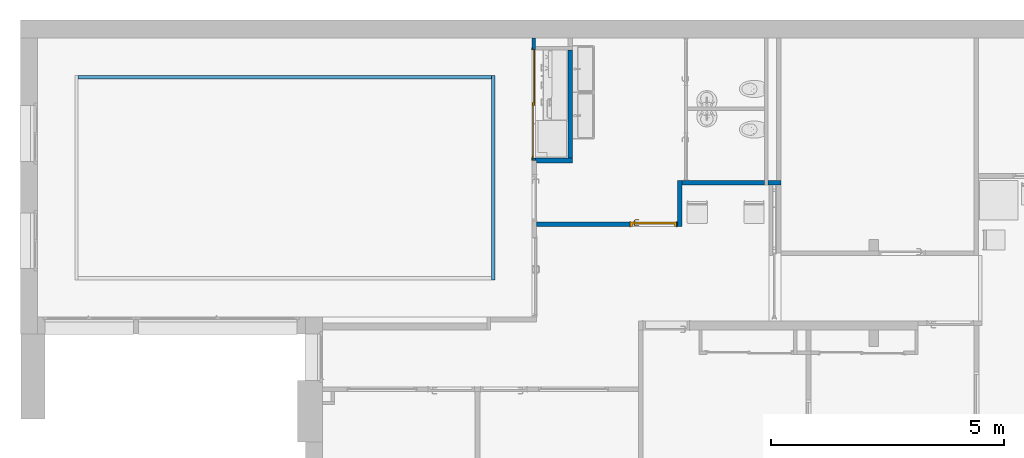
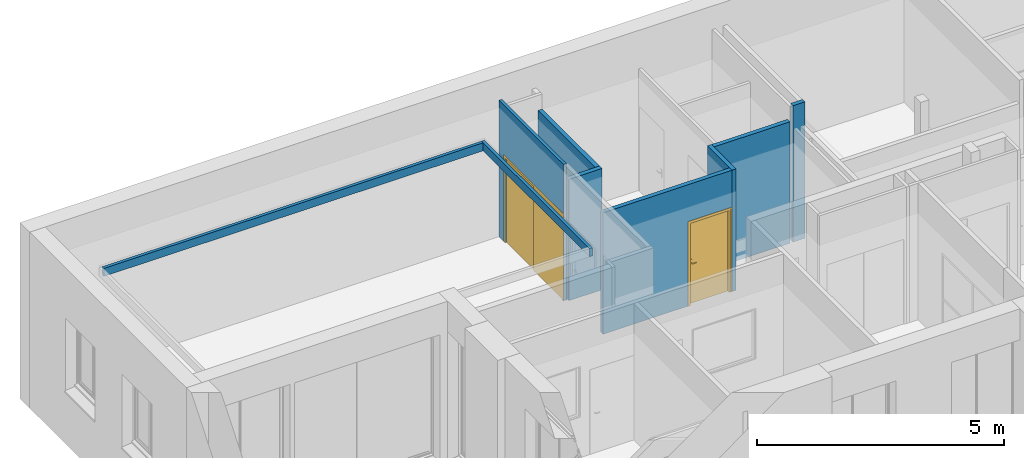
# One storey, part 9 of 32: 9 walls, 2 doors, 2 openings.
"""IFC2X3 building model written with IfcOpenShell, lengths in metres."""

from ifc_helpers import new_model, entity, si_unit, converted_unit, derived_unit, direction, frame, frame_2d, origin, origin_2d_with_axis, place, context, subcontext, project, spatial, polyline, circle_curve, parameter, trimmed, segment, composite_curve, rectangle, outline, extrude, faceted_brep, source, transform, mapped, material, material_list, layer, layer_set, layer_usage, type_object, type_shapes, element, fill, save


model = new_model("IFC2X3")

# Units and contexts
model_context = context("Model", 3, precision=1e-05, world=origin(), true_north=direction((6.12303176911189e-17, 1.0)))
plan_context = context("Plan", 3, precision=1e-05, world=origin(), true_north=direction((6.12303176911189e-17, 1.0)))
body_context = subcontext(model_context, "Body", "Model", "MODEL_VIEW")
ifc_project = project(units=[si_unit("LENGTHUNIT", "METRE"), si_unit("AREAUNIT", "SQUARE_METRE"), si_unit("VOLUMEUNIT", "CUBIC_METRE"), converted_unit("PLANEANGLEUNIT", "DEGREE", entity("IfcRatioMeasure", 0.0174532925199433), si_unit("PLANEANGLEUNIT", "RADIAN"), dimensions=[0, 0, 0, 0, 0, 0, 0]), si_unit("MASSUNIT", "GRAM", prefix="KILO"), derived_unit("MASSDENSITYUNIT", [(si_unit("MASSUNIT", "GRAM", prefix="KILO"), 1), (si_unit("LENGTHUNIT", "METRE"), -3)]), derived_unit("MOMENTOFINERTIAUNIT", [(si_unit("LENGTHUNIT", "METRE"), 4)]), si_unit("TIMEUNIT", "SECOND"), si_unit("FREQUENCYUNIT", "HERTZ"), si_unit("THERMODYNAMICTEMPERATUREUNIT", "DEGREE_CELSIUS"), derived_unit("THERMALTRANSMITTANCEUNIT", [(si_unit("MASSUNIT", "GRAM", prefix="KILO"), 1), (si_unit("THERMODYNAMICTEMPERATUREUNIT", "KELVIN"), -1), (si_unit("TIMEUNIT", "SECOND"), -3)]), derived_unit("VOLUMETRICFLOWRATEUNIT", [(si_unit("LENGTHUNIT", "METRE"), 3), (si_unit("TIMEUNIT", "SECOND"), -1)]), si_unit("ELECTRICCURRENTUNIT", "AMPERE"), si_unit("ELECTRICVOLTAGEUNIT", "VOLT"), si_unit("POWERUNIT", "WATT"), si_unit("FORCEUNIT", "NEWTON", prefix="KILO"), si_unit("ILLUMINANCEUNIT", "LUX"), si_unit("LUMINOUSFLUXUNIT", "LUMEN"), si_unit("LUMINOUSINTENSITYUNIT", "CANDELA"), derived_unit("USERDEFINED", [(si_unit("MASSUNIT", "GRAM", prefix="KILO"), -1), (si_unit("LENGTHUNIT", "METRE"), -2), (si_unit("TIMEUNIT", "SECOND"), 3), (si_unit("LUMINOUSFLUXUNIT", "LUMEN"), 1)]), derived_unit("LINEARVELOCITYUNIT", [(si_unit("LENGTHUNIT", "METRE"), 1), (si_unit("TIMEUNIT", "SECOND"), -1)]), si_unit("PRESSUREUNIT", "PASCAL"), derived_unit("USERDEFINED", [(si_unit("LENGTHUNIT", "METRE"), -2), (si_unit("MASSUNIT", "GRAM", prefix="KILO"), 1), (si_unit("TIMEUNIT", "SECOND"), -2)]), derived_unit("LINEARFORCEUNIT", [(si_unit("MASSUNIT", "GRAM", prefix="KILO"), 1), (si_unit("LENGTHUNIT", "METRE"), 1), (si_unit("TIMEUNIT", "SECOND"), -2), (si_unit("LENGTHUNIT", "METRE"), -1)]), derived_unit("PLANARFORCEUNIT", [(si_unit("MASSUNIT", "GRAM", prefix="KILO"), 1), (si_unit("LENGTHUNIT", "METRE"), 1), (si_unit("TIMEUNIT", "SECOND"), -2), (si_unit("LENGTHUNIT", "METRE"), -2)])], contexts=[model_context, plan_context])

# Site, building, storey
site_placement = place(None, origin())
site = spatial("IfcSite", under=ifc_project, at=site_placement, Name="Default", CompositionType="ELEMENT")
building_placement = place(site_placement, origin())
building = spatial("IfcBuilding", under=site, at=building_placement, CompositionType="ELEMENT")
storey_placement = place(building_placement, origin())
storey = spatial("IfcBuildingStorey", under=building, at=storey_placement, Name="0 Mairie RDC 0.00", CompositionType="ELEMENT", Elevation=-1.94916083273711e-14)

# Walls
ifc_material_1 = material(Name="Plâtre")
ifc_layer_1 = layer(ifc_material_1, 0.0125)
ifc_layer_2 = layer(ifc_material_1, 0.0125)
ifc_material_2 = material(Name="Maçonnerie - Isolant")
ifc_layer_3 = layer(ifc_material_2, 0.05)
ifc_layer_4 = layer(ifc_material_1, 0.0125)
ifc_layer_5 = layer(ifc_material_1, 0.0125)
ifc_layer_set_1 = layer_set([ifc_layer_1, ifc_layer_2, ifc_layer_3, ifc_layer_4, ifc_layer_5], Name="Mur de base:A cloison placostil 98 sèche")
ifc_layer_usage_1 = layer_usage(ifc_layer_set_1, "AXIS2", "NEGATIVE", 0.05)
wall_type_1 = type_object("IfcWallType", Name="Murs : Mur de base : A cloison placostil 98 sèche", PredefinedType="STANDARD", material=ifc_layer_set_1)
wall_1_placement = place(storey_placement, frame((-16.1166269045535, -6.01276374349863, 0.0), z_axis=(0.0, 0.0, 1.0), x_axis=(0.0, 1.0, 0.0)))
element("IfcWallStandardCase", 1, at=wall_1_placement, inside=storey, type_object=wall_type_1, material=ifc_layer_usage_1, Name="Murs : Mur de base : A cloison placostil 98 sèche", ObjectType="Mur de base:A cloison placostil 98 sèche", context=body_context, shape_type="SweptSolid", body=[
    extrude(rectangle(XDim=0.992841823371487, YDim=0.0999999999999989, at=frame_2d((0.496420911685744, 0.0), x_axis=(-1.0, 0.0))), origin(), (0.0, 0.0, 1.0), 3.0),
])
ifc_layer_usage_2 = layer_usage(ifc_layer_set_1, "AXIS2", "NEGATIVE", 0.05)
wall_2_placement = place(storey_placement, frame((-14.2967760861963, -5.06992192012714, 0.0), z_axis=(0.0, 0.0, 1.0), x_axis=(-1.0, 0.0, 0.0)))
element("IfcWallStandardCase", 2, at=wall_2_placement, inside=storey, type_object=wall_type_1, material=ifc_layer_usage_2, Name="Murs : Mur de base : A cloison placostil 98 sèche", ObjectType="Mur de base:A cloison placostil 98 sèche", context=body_context, shape_type="SweptSolid", body=[
    extrude(rectangle(XDim=1.76985081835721, YDim=0.100000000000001, at=frame_2d((0.884925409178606, 5.55111512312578e-17), x_axis=(-1.0, 0.0))), origin(), (0.0, 0.0, 1.0), 3.0),
])

# Wall, opening, door
ifc_layer_usage_3 = layer_usage(ifc_layer_set_1, "AXIS2", "POSITIVE", -0.05)
wall_3_placement = place(storey_placement, frame((-19.1821823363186, -5.96276374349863, 0.0)))
wall_3 = element("IfcWallStandardCase", 3, at=wall_3_placement, inside=storey, type_object=wall_type_1, material=ifc_layer_usage_3, Name="Murs : Mur de base : A cloison placostil 98 sèche", ObjectType="Mur de base:A cloison placostil 98 sèche", context=body_context, shape_type="SweptSolid", body=[
    extrude(rectangle(XDim=3.01555543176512, YDim=0.0999999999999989, at=frame_2d((1.50777771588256, -1.56125112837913e-16), x_axis=(-1.0, 0.0))), origin(), (0.0, 0.0, 1.0), 3.0),
])
opening_1_placement = place(wall_3_placement, frame((2.00055543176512, -0.050000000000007, 0.0)))
opening_1 = element("IfcOpeningElement", 4, at=opening_1_placement, cuts=wall_3, Name="Portes : Int. Simple : PP (0.89m x 2.04m):1", ObjectType="Opening", context=body_context, shape_type="SweptSolid", body=[
    extrude(rectangle(XDim=2.075, YDim=1.0, at=frame_2d((1.0375, 0.5), x_axis=(1.0, 0.0))), frame((0.0, 0.0, 0.0), z_axis=(0.0, 1.0, 0.0), x_axis=(0.0, 0.0, 1.0)), (0.0, 0.0, 1.0), 0.1),
])
ifc_material_3 = material(Name="Finition Peinture - Blanc satiné")
ifc_material_4 = material(Name="Bois - Cadre de porte")
ifc_material_list_1 = material_list([ifc_material_3, ifc_material_4])
ifc_material_5 = material(Name="Bois - Panneau de porte")
ifc_material_list_2 = material_list([ifc_material_5, ifc_material_4, ifc_material_3])
door_style_1 = type_object("IfcDoorStyle", Name="Portes : Int. Simple : PP (0.89m x 2.04m)", ConstructionType="NOTDEFINED", OperationType="NOTDEFINED", ParameterTakesPrecedence=False, Sizeable=False, material=ifc_material_list_2)
shared_shape_1 = source(origin(), body_context, "Body", "SolidModel", [
    extrude(outline(composite_curve([segment(polyline([(-0.104999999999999, -0.02), (0.104999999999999, -0.0199999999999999)]), True, "CONTINUOUS"), segment(trimmed(circle_curve(frame_2d((0.0703589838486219, 0.0), x_axis=(0.0, 1.0)), 0.0399999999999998), [parameter(240.000000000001)], [parameter(300.0)], True, "PARAMETER"), True, "CONTINUOUS"), segment(polyline([(0.104999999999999, 0.0199999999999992), (-0.105, 0.0200000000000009)]), True, "CONTINUOUS"), segment(trimmed(circle_curve(frame_2d((-0.0703589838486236, 0.0), x_axis=(0.0, 1.0)), 0.0399999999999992), [parameter(59.9999999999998)], [parameter(120.0)], True, "PARAMETER"), True, "CONTINUOUS")], self_intersect=False)), frame((0.975000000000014, 0.0, 0.975000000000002), z_axis=(0.0, -1.0, 0.0), x_axis=(0.0, 0.0, 1.0)), (0.0, 0.0, 1.0), 0.005),
    extrude(outline(composite_curve([segment(polyline([(-0.105, -0.02), (0.105, -0.02)]), True, "CONTINUOUS"), segment(trimmed(circle_curve(frame_2d((0.0703589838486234, 0.0), x_axis=(0.0, -1.0)), 0.0399999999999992), [parameter(59.9999999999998)], [parameter(120.0)], True, "PARAMETER"), True, "CONTINUOUS"), segment(polyline([(0.104999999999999, 0.0200000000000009), (-0.105, 0.0199999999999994)]), True, "CONTINUOUS"), segment(trimmed(circle_curve(frame_2d((-0.0703589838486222, 0.0), x_axis=(0.0, -1.0)), 0.0399999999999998), [parameter(240.0)], [parameter(300.0)], True, "PARAMETER"), True, "CONTINUOUS")], self_intersect=False)), frame((0.975000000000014, 0.0449999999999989, 0.975000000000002), z_axis=(0.0, -1.0, 0.0), x_axis=(0.0, 0.0, -1.0)), (0.0, 0.0, 1.0), 0.00500000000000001),
    extrude(rectangle(XDim=0.93, YDim=0.04, at=origin_2d_with_axis()), frame((0.570000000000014, 0.02, 0.0), z_axis=(0.0, 0.0, 1.0), x_axis=(-1.0, 0.0, 0.0)), (0.0, 0.0, 1.0), 2.04),
    extrude(outline(polyline([(0.484999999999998, -1.03750000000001), (0.514999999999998, -1.03750000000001), (0.514999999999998, 1.0525), (-0.514999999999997, 1.0525), (-0.514999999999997, -1.0375), (-0.484999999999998, -1.03750000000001), (-0.484999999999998, 1.02250000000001), (0.484999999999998, 1.02250000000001), (0.484999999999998, -1.03750000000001)])), frame((0.570000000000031, 0.105000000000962, 1.03750000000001), z_axis=(0.0, -1.0, 0.0), x_axis=(1.0, 0.0, 0.0)), (0.0, 0.0, 1.0), 0.00500000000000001),
    extrude(outline(polyline([(0.484999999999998, -1.03750000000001), (0.514999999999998, -1.03750000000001), (0.514999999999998, 1.0525), (-0.514999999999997, 1.0525), (-0.514999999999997, -1.0375), (-0.484999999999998, -1.03750000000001), (-0.484999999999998, 1.02250000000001), (0.484999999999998, 1.02250000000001), (0.484999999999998, -1.03750000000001)])), frame((0.570000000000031, 0.0, 1.03750000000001), z_axis=(0.0, -1.0, 0.0), x_axis=(1.0, 0.0, 0.0)), (0.0, 0.0, 1.0), 0.005),
    faceted_brep([(0.972974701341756, -0.0050000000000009, 1.00778044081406), (0.977025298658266, -0.00500000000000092, 1.00778044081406), (0.981000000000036, -0.00500000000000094, 1.00699999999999), (0.981000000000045, -0.00500000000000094, 0.992999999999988), (0.977025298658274, -0.00500000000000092, 0.99221955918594), (0.972974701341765, -0.0050000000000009, 0.992219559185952), (0.968999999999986, -0.00500000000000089, 0.993000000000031), (0.968999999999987, -0.00500000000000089, 1.007), (0.977025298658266, -0.0310045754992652, 1.00778044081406), (0.981000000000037, -0.0326509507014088, 1.007), (0.972974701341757, -0.0293267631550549, 1.00778044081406), (0.959298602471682, -0.0430028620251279, 1.00778044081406), (0.960976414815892, -0.0470534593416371, 1.00778044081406), (0.968999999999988, -0.0276803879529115, 1.007), (0.968999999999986, -0.0276803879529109, 0.993000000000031), (0.972974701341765, -0.0293267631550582, 0.992219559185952), (0.977025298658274, -0.0310045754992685, 0.99221955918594), (0.960976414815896, -0.0470534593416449, 0.99221955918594), (0.959298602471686, -0.0430028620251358, 0.992219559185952), (0.981000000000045, -0.0326509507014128, 0.992999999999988), (0.962622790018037, -0.051028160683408, 1.007), (0.957652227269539, -0.0390281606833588, 1.007), (0.957652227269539, -0.0390281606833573, 0.993000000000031), (0.96262279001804, -0.0510281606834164, 0.992999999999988), (0.874981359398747, -0.0510281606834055, 1.007), (0.874981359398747, -0.0470534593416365, 1.00778044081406), (0.874981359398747, -0.0430028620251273, 1.00778044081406), (0.874981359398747, -0.0390281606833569, 1.00699999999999), (0.874981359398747, -0.0390281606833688, 0.993000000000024), (0.874981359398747, -0.0430028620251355, 0.992219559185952), (0.874981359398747, -0.0470534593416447, 0.99221955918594), (0.874981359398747, -0.0510281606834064, 0.992999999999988), (0.917139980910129, -0.045028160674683, 1.0078786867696), (0.922692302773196, -0.051028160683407, 1.007), (0.916316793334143, -0.039028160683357, 1.007), (0.916316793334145, -0.0390281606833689, 0.993000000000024), (0.917139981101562, -0.0450281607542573, 0.992121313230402), (0.922692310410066, -0.0510281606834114, 0.992999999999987)], [[[0, 1, 2, 3, 4, 5, 6, 7]], [[2, 1, 8, 9]], [[1, 0, 10, 11, 12, 8]], [[0, 7, 13, 10]], [[14, 13, 7, 6]], [[5, 15, 14, 6]], [[5, 4, 16, 17, 18, 15]], [[3, 19, 16, 4]], [[9, 19, 3, 2]], [[9, 8, 12, 20]], [[10, 13, 21, 11]], [[22, 21, 13, 14]], [[14, 15, 18, 22]], [[16, 19, 23, 17]], [[20, 23, 19, 9]], [[24, 25, 26, 27, 28, 29, 30, 31]], [[32, 25, 33]], [[33, 25, 24]], [[33, 20, 12]], [[11, 34, 32]], [[34, 11, 21]], [[27, 26, 34]], [[32, 26, 25]], [[32, 34, 26]], [[32, 33, 12]], [[11, 32, 12]], [[21, 22, 35, 28, 27, 34]], [[36, 29, 35]], [[30, 36, 37]], [[18, 35, 22]], [[29, 28, 35]], [[30, 37, 31]], [[37, 17, 23]], [[36, 17, 37]], [[36, 18, 17]], [[36, 35, 18]], [[29, 36, 30]], [[23, 20, 33, 24, 31, 37]]]),
    faceted_brep([(0.972974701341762, 0.0449999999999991, 0.992219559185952), (0.977025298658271, 0.0449999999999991, 0.99221955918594), (0.981000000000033, 0.044999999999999, 0.992999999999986), (0.981000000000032, 0.044999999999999, 1.007), (0.977025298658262, 0.0449999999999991, 1.00778044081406), (0.972974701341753, 0.0449999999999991, 1.00778044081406), (0.968999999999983, 0.0449999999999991, 1.007), (0.968999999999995, 0.0449999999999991, 0.993000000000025), (0.968999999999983, 0.067485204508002, 1.007), (0.968999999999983, 0.0674852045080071, 0.993000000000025), (0.972974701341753, 0.0691315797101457, 1.00778044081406), (0.977025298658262, 0.070809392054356, 1.00778044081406), (0.960838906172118, 0.0869957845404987, 1.00778044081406), (0.959161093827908, 0.0829451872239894, 1.00778044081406), (0.981000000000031, 0.0724557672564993, 1.007), (0.981000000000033, 0.0724557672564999, 0.992999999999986), (0.977025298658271, 0.0708093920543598, 0.99221955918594), (0.972974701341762, 0.0691315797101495, 0.992219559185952), (0.959161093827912, 0.0829451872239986, 0.992219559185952), (0.960838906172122, 0.0869957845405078, 0.99221955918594), (0.957514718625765, 0.0789704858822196, 1.007), (0.957514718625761, 0.0789704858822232, 0.993000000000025), (0.962485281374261, 0.0909704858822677, 1.007), (0.962485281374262, 0.0909704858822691, 0.992999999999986), (0.874954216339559, 0.0829451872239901, 1.00778044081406), (0.874954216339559, 0.0869957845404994, 1.00778044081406), (0.874954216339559, 0.0909704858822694, 1.007), (0.874954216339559, 0.0909704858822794, 0.992999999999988), (0.874954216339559, 0.086995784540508, 0.99221955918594), (0.874954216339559, 0.0829451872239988, 0.992219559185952), (0.874954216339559, 0.0789704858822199, 0.993000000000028), (0.874954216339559, 0.0789704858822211, 1.007), (0.916234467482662, 0.0789704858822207, 1.007), (0.916234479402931, 0.0789704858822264, 0.993000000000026), (0.917057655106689, 0.0849704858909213, 1.0078786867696), (0.922554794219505, 0.0909704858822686, 1.007), (0.922554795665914, 0.0909704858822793, 0.992999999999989), (0.917057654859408, 0.0849704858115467, 0.992121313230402)], [[[0, 1, 2, 3, 4, 5, 6, 7]], [[8, 9, 7, 6]], [[5, 10, 8, 6]], [[5, 4, 11, 12, 13, 10]], [[3, 14, 11, 4]], [[14, 3, 2, 15]], [[2, 1, 16, 15]], [[1, 0, 17, 18, 19, 16]], [[0, 7, 9, 17]], [[20, 21, 9, 8]], [[8, 10, 13, 20]], [[14, 22, 12, 11]], [[23, 22, 14, 15]], [[15, 16, 19, 23]], [[17, 9, 21, 18]], [[24, 25, 26, 27, 28, 29, 30, 31]], [[21, 20, 32, 31, 30, 33]], [[34, 24, 32]], [[25, 34, 35]], [[13, 32, 20]], [[24, 31, 32]], [[25, 35, 26]], [[35, 12, 22]], [[34, 12, 35]], [[34, 13, 12]], [[34, 32, 13]], [[24, 34, 25]], [[22, 23, 36, 27, 26, 35]], [[37, 28, 36]], [[36, 28, 27]], [[36, 23, 19]], [[18, 33, 37]], [[33, 18, 21]], [[30, 29, 33]], [[37, 29, 28]], [[37, 33, 29]], [[37, 36, 19]], [[18, 37, 19]]]),
    faceted_brep([(1.07000000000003, 0.0, 0.0), (1.03500000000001, 0.0, 0.0), (1.03500000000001, 0.040000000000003, 0.0), (1.02000000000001, 0.040000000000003, 0.0), (1.02000000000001, 0.100000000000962, 0.0), (1.07000000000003, 0.100000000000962, 0.0), (1.07000000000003, 0.100000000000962, 2.07500000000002), (1.07000000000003, 0.0, 2.07500000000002), (1.02000000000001, 0.100000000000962, 2.025), (0.120000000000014, 0.100000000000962, 2.025), (0.120000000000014, 0.100000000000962, 0.0), (0.0699999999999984, 0.100000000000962, 0.0), (0.0699999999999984, 0.100000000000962, 2.07500000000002), (1.02000000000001, 0.040000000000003, 2.025), (1.03500000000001, 0.040000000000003, 2.04), (0.105000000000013, 0.040000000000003, 2.04), (0.105000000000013, 0.040000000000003, 0.0), (0.120000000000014, 0.040000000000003, 0.0), (0.120000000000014, 0.040000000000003, 2.025), (1.03500000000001, 0.0, 2.04), (0.0699999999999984, 0.0, 2.07500000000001), (0.0699999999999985, 0.0, 0.0), (0.105000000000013, 0.0, 0.0), (0.105000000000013, 0.0, 2.04)], [[[0, 1, 2, 3, 4, 5]], [[5, 6, 7, 0]], [[4, 8, 9, 10, 11, 12, 6, 5]], [[3, 13, 8, 4]], [[2, 14, 15, 16, 17, 18, 13, 3]], [[1, 19, 14, 2]], [[0, 7, 20, 21, 22, 23, 19, 1]], [[12, 11, 21, 20]], [[21, 11, 10, 17, 16, 22]], [[18, 17, 10, 9]], [[23, 22, 16, 15]], [[6, 12, 20, 7]], [[13, 18, 9, 8]], [[19, 23, 15, 14]]]),
])
type_shapes(door_style_1, [shared_shape_1])
door_1_placement = place(opening_1_placement, frame((1.07000000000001, 0.0999999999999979, 0.0), z_axis=(0.0, 0.0, 1.0), x_axis=(-1.0, 0.0, 0.0)))
door_1 = element("IfcDoor", 5, at=door_1_placement, inside=storey, type_object=door_style_1, material=ifc_material_list_1, Name="Portes : Int. Simple : PP (0.89m x 2.04m)", ObjectType="Int. Simple:PP (0.89m x 2.04m)", OverallHeight=2.075, OverallWidth=1.0, context=body_context, shape_type="MappedRepresentation", body=[
    mapped(shared_shape_1, transform((0.0, 0.0, 0.0), scale=1.0)),
])
fill(opening_1, door_1)

# Walls
ifc_layer_usage_4 = layer_usage(ifc_layer_set_1, "AXIS2", "NEGATIVE", 0.05)
wall_4_placement = place(storey_placement, frame((-19.2121823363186, -4.59376374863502, 0.0)))
element("IfcWallStandardCase", 6, at=wall_4_placement, inside=storey, type_object=wall_type_1, material=ifc_layer_usage_4, Name="Murs : Mur de base : A cloison placostil 98 sèche", ObjectType="Mur de base:A cloison placostil 98 sèche", context=body_context, shape_type="SweptSolid", body=[
    extrude(outline(polyline([(0.8, -0.0500000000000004), (0.8, 0.0499999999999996), (0.699999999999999, 0.0499999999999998), (0.0, 0.05), (0.0, 0.0), (0.030000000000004, 0.0), (0.030000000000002, -0.0500000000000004), (0.8, -0.0500000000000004)])), origin(), (0.0, 0.0, 1.0), 3.0),
])
ifc_layer_usage_5 = layer_usage(ifc_layer_set_1, "AXIS2", "NEGATIVE", 0.05)
wall_5_placement = place(storey_placement, frame((-18.4621823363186, -4.54376374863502, 0.0), z_axis=(0.0, 0.0, 1.0), x_axis=(0.0, 1.0, 0.0)))
element("IfcWallStandardCase", 7, at=wall_5_placement, inside=storey, type_object=wall_type_1, material=ifc_layer_usage_5, Name="Murs : Mur de base : A cloison placostil 98 sèche", ObjectType="Mur de base:A cloison placostil 98 sèche", context=body_context, shape_type="SweptSolid", body=[
    extrude(rectangle(XDim=2.32099999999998, YDim=0.0999999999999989, at=frame_2d((1.16049999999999, 8.70831184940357e-16), x_axis=(-1.0, 0.0))), origin(), (0.0, 0.0, 1.0), 3.0),
])
ifc_layer_usage_6 = layer_usage(ifc_layer_set_1, "AXIS2", "POSITIVE", -0.05)
wall_6_placement = place(storey_placement, frame((-14.2267760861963, -5.06992192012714, 0.0)))
element("IfcWallStandardCase", 8, at=wall_6_placement, inside=storey, type_object=wall_type_1, material=ifc_layer_usage_6, Name="Murs : Mur de base : A cloison placostil 98 sèche", ObjectType="Mur de base:A cloison placostil 98 sèche", context=body_context, shape_type="SweptSolid", body=[
    extrude(rectangle(XDim=0.280000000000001, YDim=0.100000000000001, at=frame_2d((0.140000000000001, 0.0), x_axis=(-1.0, 0.0))), origin(), (0.0, 0.0, 1.0), 3.37),
])

# Wall, opening, door
ifc_layer_6 = layer(ifc_material_1, 0.01)
ifc_layer_7 = layer(ifc_material_2, 0.05)
ifc_layer_8 = layer(ifc_material_1, 0.01)
ifc_layer_set_2 = layer_set([ifc_layer_6, ifc_layer_7, ifc_layer_8], Name="Mur de base:A cloison placostil 72 sèche")
ifc_layer_usage_7 = layer_usage(ifc_layer_set_2, "AXIS2", "POSITIVE", -0.035)
wall_type_2 = type_object("IfcWallType", Name="Murs : Mur de base : A cloison placostil 72 sèche", PredefinedType="STANDARD", material=ifc_layer_set_2)
wall_7_placement = place(storey_placement, frame((-19.2471823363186, -4.59376374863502, 0.0), z_axis=(0.0, 0.0, 1.0), x_axis=(0.0, 1.0, 0.0)))
wall_7 = element("IfcWallStandardCase", 9, at=wall_7_placement, inside=storey, type_object=wall_type_2, material=ifc_layer_usage_7, Name="Murs : Mur de base : A cloison placostil 72 sèche", ObjectType="Mur de base:A cloison placostil 72 sèche", context=body_context, shape_type="SweptSolid", body=[
    extrude(rectangle(XDim=2.621, YDim=0.0700000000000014, at=frame_2d((1.3105, 0.0), x_axis=(-1.0, 0.0))), origin(), (0.0, 0.0, 1.0), 3.37),
])
opening_2_placement = place(wall_7_placement, frame((0.0509999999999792, -0.0349999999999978, 0.0)))
opening_2 = element("IfcOpeningElement", 10, at=opening_2_placement, cuts=wall_7, Name="Portes : Placard coulissante - 2 panneaux : Placard coulissante - 2 panneaux 2.32:1", ObjectType="Opening", context=body_context, shape_type="SweptSolid", body=[
    extrude(rectangle(XDim=2.09999999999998, YDim=2.32, at=frame_2d((1.04999999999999, 1.16), x_axis=(1.0, 0.0))), frame((0.0, 0.0, 0.0), z_axis=(0.0, 1.0, 0.0), x_axis=(0.0, 0.0, 1.0)), (0.0, 0.0, 1.0), 0.07),
])
ifc_material_6 = material(Name="Placard - Profil")
ifc_material_7 = material(Name="Placard - Encadrement")
ifc_material_8 = material(Name="Placard - Porte")
ifc_material_list_3 = material_list([ifc_material_6, ifc_material_6, ifc_material_6, ifc_material_6, ifc_material_7, ifc_material_8, ifc_material_8])
ifc_material_list_4 = material_list([ifc_material_6, ifc_material_6, ifc_material_6, ifc_material_6, ifc_material_7, ifc_material_8, ifc_material_8])
door_style_2 = type_object("IfcDoorStyle", Name="Portes : Placard coulissante - 2 panneaux : Placard coulissante - 2 panneaux 2.32", ConstructionType="NOTDEFINED", OperationType="SLIDING_TO_RIGHT", ParameterTakesPrecedence=False, Sizeable=False, material=ifc_material_list_4)
shared_shape_2 = source(origin(), body_context, "Body", "SweptSolid", [
    extrude(outline(composite_curve([segment(polyline([(-0.0250000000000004, -0.00100000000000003), (0.0249999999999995, -0.00100000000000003)]), True, "CONTINUOUS"), segment(polyline([(0.0249999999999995, -0.00100000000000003), (0.0249999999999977, 0.00100000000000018)]), True, "CONTINUOUS"), segment(trimmed(circle_curve(frame_2d((0.0, -0.212860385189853), x_axis=(-1.0, 0.0)), 0.215316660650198), [parameter(263.332459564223)], [parameter(276.667540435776)], True, "PARAMETER"), True, "CONTINUOUS"), segment(polyline([(-0.0250000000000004, 0.00100000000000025), (-0.0250000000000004, -0.00100000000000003)]), True, "CONTINUOUS")], self_intersect=False)), frame((2.295, 0.00899999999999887, 0.0), z_axis=(0.0, 0.0, 1.0), x_axis=(-1.0, 0.0, 0.0)), (0.0, 0.0, 1.0), 2.1),
    extrude(outline(composite_curve([segment(polyline([(-0.0250000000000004, -0.00100000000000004), (0.0249999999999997, -0.00100000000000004)]), True, "CONTINUOUS"), segment(polyline([(0.0249999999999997, -0.00100000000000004), (0.0249999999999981, 0.00100000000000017)]), True, "CONTINUOUS"), segment(trimmed(circle_curve(frame_2d((0.0, -0.212860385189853), x_axis=(-1.0, 0.0)), 0.215316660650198), [parameter(263.332459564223)], [parameter(276.667540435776)], True, "PARAMETER"), True, "CONTINUOUS"), segment(polyline([(-0.0250000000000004, 0.00100000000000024), (-0.0250000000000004, -0.00100000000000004)]), True, "CONTINUOUS")], self_intersect=False)), frame((1.16, 0.00900000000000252, 0.0), z_axis=(0.0, 0.0, 1.0), x_axis=(-1.0, 0.0, 0.0)), (0.0, 0.0, 1.0), 2.1),
    extrude(outline(composite_curve([segment(polyline([(-0.0250000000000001, -0.00100000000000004), (0.0249999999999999, -0.00100000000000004)]), True, "CONTINUOUS"), segment(polyline([(0.0249999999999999, -0.00100000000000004), (0.0249999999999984, 0.00100000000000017)]), True, "CONTINUOUS"), segment(trimmed(circle_curve(frame_2d((0.0, -0.212860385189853), x_axis=(-1.0, 0.0)), 0.215316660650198), [parameter(263.332459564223)], [parameter(276.667540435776)], True, "PARAMETER"), True, "CONTINUOUS"), segment(polyline([(-0.0250000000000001, 0.00100000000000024), (-0.0250000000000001, -0.00100000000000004)]), True, "CONTINUOUS")], self_intersect=False)), frame((1.16, 0.0340000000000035, 0.0), z_axis=(0.0, 0.0, 1.0), x_axis=(-1.0, 0.0, 0.0)), (0.0, 0.0, 1.0), 2.1),
    extrude(outline(composite_curve([segment(polyline([(-0.0250000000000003, -0.00100000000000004), (0.0249999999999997, -0.00100000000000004)]), True, "CONTINUOUS"), segment(polyline([(0.0249999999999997, -0.00100000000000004), (0.0249999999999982, 0.00100000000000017)]), True, "CONTINUOUS"), segment(trimmed(circle_curve(frame_2d((0.0, -0.212860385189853), x_axis=(-1.0, 0.0)), 0.215316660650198), [parameter(263.332459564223)], [parameter(276.667540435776)], True, "PARAMETER"), True, "CONTINUOUS"), segment(polyline([(-0.0250000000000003, 0.00100000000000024), (-0.0250000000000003, -0.00100000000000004)]), True, "CONTINUOUS")], self_intersect=False)), frame((0.0249999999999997, 0.0340000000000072, 0.0), z_axis=(0.0, 0.0, 1.0), x_axis=(-1.0, 0.0, 0.0)), (0.0, 0.0, 1.0), 2.1),
    extrude(outline(polyline([(-1.06149999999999, -1.208), (1.08649999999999, -1.208), (1.08649999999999, 1.208), (-1.06149999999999, 1.208), (-1.06149999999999, 1.158), (1.03649999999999, 1.158), (1.03649999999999, -1.158), (-1.06149999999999, -1.158), (-1.06149999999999, -1.208)])), frame((1.16, -0.00300000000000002, 1.06149999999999), z_axis=(0.0, 1.0, 0.0), x_axis=(0.0, 0.0, 1.0)), (0.0, 0.0, 1.0), 0.00300000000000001),
    extrude(rectangle(XDim=0.020000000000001, YDim=1.185, at=frame_2d((0.0, -5.55111512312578e-17), x_axis=(1.0, 0.0))), frame((1.7275, 0.0200000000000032, 0.0), z_axis=(0.0, 0.0, 1.0), x_axis=(0.0, 1.0, 0.0)), (0.0, 0.0, 1.0), 2.1),
    extrude(rectangle(XDim=0.02, YDim=1.185, at=origin_2d_with_axis()), frame((0.592499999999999, 0.0450000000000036, 0.0), z_axis=(0.0, 0.0, 1.0), x_axis=(0.0, 1.0, 0.0)), (0.0, 0.0, 1.0), 2.1),
])
type_shapes(door_style_2, [shared_shape_2])
door_2_placement = place(opening_2_placement, frame((2.32, 0.0700000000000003, 0.0), z_axis=(0.0, 0.0, 1.0), x_axis=(-1.0, 0.0, 0.0)))
door_2 = element("IfcDoor", 11, at=door_2_placement, inside=storey, type_object=door_style_2, material=ifc_material_list_3, Name="Portes : Placard coulissante - 2 panneaux : Placard coulissante - 2 panneaux 2.32", ObjectType="Placard coulissante - 2 panneaux:Placard coulissante - 2 panneaux 2.32", OverallHeight=2.09999999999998, OverallWidth=2.32, context=body_context, shape_type="MappedRepresentation", body=[
    mapped(shared_shape_2, transform((0.0, 0.0, 0.0), scale=1.0)),
])
fill(opening_2, door_2)

# Walls
ifc_layer_usage_8 = layer_usage(ifc_layer_set_2, "AXIS2", "POSITIVE", -0.035)
wall_8_placement = place(storey_placement, frame((-20.1171823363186, -7.15302112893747, 2.95), z_axis=(0.0, 0.0, 1.0), x_axis=(0.0, 1.0, 0.0)))
element("IfcWallStandardCase", 12, at=wall_8_placement, inside=storey, type_object=wall_type_2, material=ifc_layer_usage_8, Name="Murs : Mur de base : A cloison placostil 72 sèche", ObjectType="Mur de base:A cloison placostil 72 sèche", context=body_context, shape_type="SweptSolid", body=[
    extrude(rectangle(XDim=4.38025738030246, YDim=0.0700000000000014, at=frame_2d((2.19012869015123, 0.0), x_axis=(-1.0, 0.0))), origin(), (0.0, 0.0, 1.0), 0.2),
])
ifc_layer_usage_9 = layer_usage(ifc_layer_set_2, "AXIS2", "POSITIVE", -0.035)
wall_9_placement = place(storey_placement, frame((-29.0170149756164, -2.80776374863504, 2.95)))
element("IfcWallStandardCase", 13, at=wall_9_placement, inside=storey, type_object=wall_type_2, material=ifc_layer_usage_9, Name="Murs : Mur de base : A cloison placostil 72 sèche", ObjectType="Mur de base:A cloison placostil 72 sèche", context=body_context, shape_type="SweptSolid", body=[
    extrude(rectangle(XDim=8.86483263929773, YDim=0.0700000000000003, at=frame_2d((4.43241631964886, -1.66533453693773e-16), x_axis=(-1.0, 0.0))), origin(), (0.0, 0.0, 1.0), 0.2),
])

save(model, "model.ifc")
